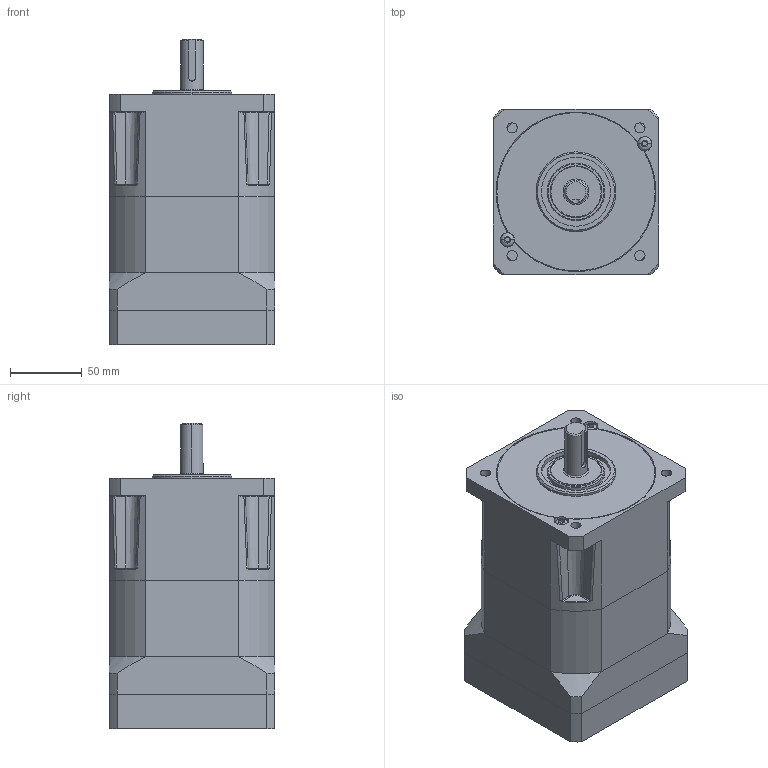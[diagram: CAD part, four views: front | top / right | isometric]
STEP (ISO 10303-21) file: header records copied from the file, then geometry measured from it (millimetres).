
FILE_DESCRIPTION((''),'2;1');
FILE_NAME('PX42-020-000-X2_SW0001','2008-11-20T',('aza7363'),(''),'PRO/ENGINEER BY PARAMETRIC TECHNOLOGY CORPORATION, 2006300','PRO/ENGINEER BY PARAMETRIC TECHNOLOGY CORPORATION, 2006300','');
FILE_SCHEMA(('CONFIG_CONTROL_DESIGN'));
Length unit declared in the file: millimetre
Products named in the file (1): PX42-020-000-X2_SW0001
Bounding box: 115 x 115 x 212.3 mm (x, y, z)
Surface area: 143303 mm2 (no closed solid volume)
Topology: 0 solids, 30 shells, 334 faces, 901 edges, 611 vertices
Faces by surface type: plane 132, cylinder 117, bspline 48, cone 23, torus 14
Entity records: 12851 total; most frequent: CARTESIAN_POINT 4605, DIRECTION 1718, ORIENTED_EDGE 1584, EDGE_CURVE 901, AXIS2_PLACEMENT_3D 651, VERTEX_POINT 611, VECTOR 416, LINE 416
